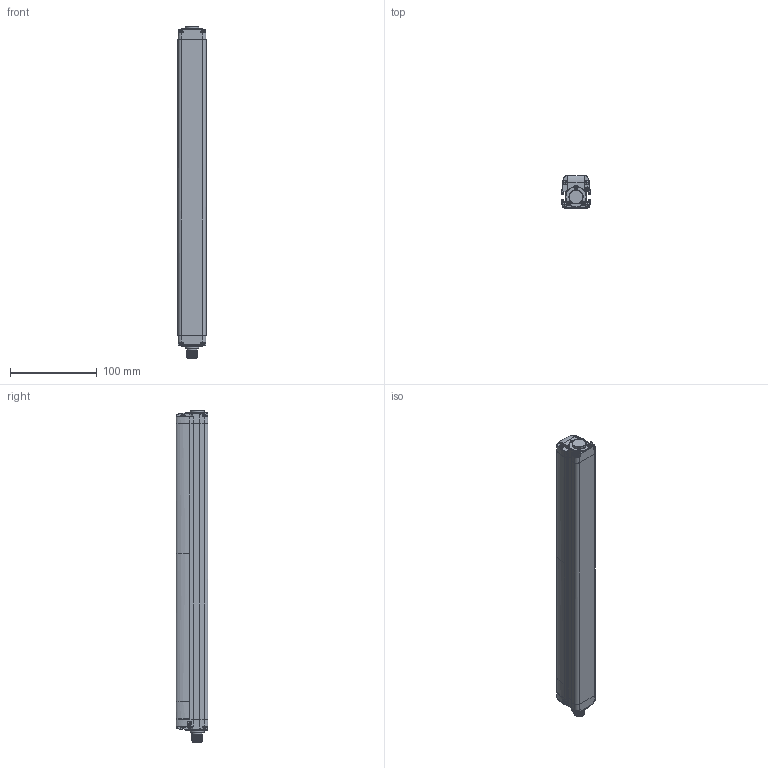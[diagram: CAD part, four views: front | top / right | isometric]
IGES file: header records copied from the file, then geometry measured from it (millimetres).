
Global section: file name: D:\Studi\DSD-0170.igs; preprocessor: I-DEAS 3D IGES Translator 11; date: 20080609.160041; units: millimetre
Bounding box: 32.3 x 36.9 x 382.84 mm (x, y, z)
Volume: 352447.3 mm3; surface area: 93082.9 mm2
Topology: 11 solids, 11 shells, 1652 faces, 6802 edges, 5562 vertices
Faces by surface type: bspline 1652
